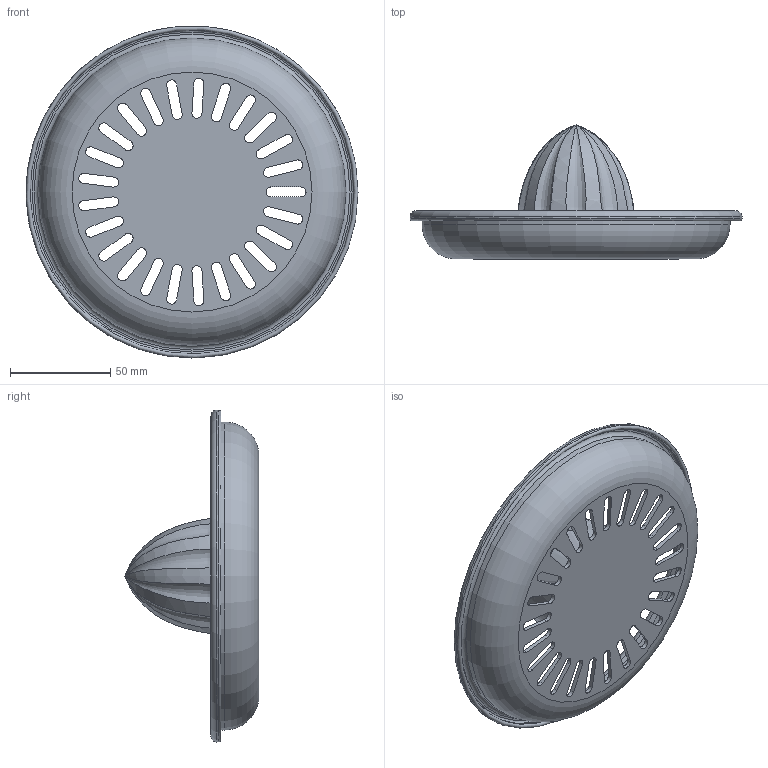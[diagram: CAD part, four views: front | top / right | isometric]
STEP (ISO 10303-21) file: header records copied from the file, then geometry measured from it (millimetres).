
FILE_DESCRIPTION(/* description */ (''),/* implementation_level */ '2;1');
FILE_NAME(/* name */ 'D:\INVENTOR Doc\In Class-Training-Tutorials Files\Assembly-Part-ipt-iam-DONE\Part\Plastic Part-Juice.stp',/* time_stamp */ '2024-02-15T09:19:49+04:00',/* author */ ('LENOVO'),/* organization */ (''),/* preprocessor_version */ 'ST-DEVELOPER v18.1',/* originating_system */ 'Autodesk Inventor 2022',/* authorisation */ '');
FILE_SCHEMA (('AUTOMOTIVE_DESIGN { 1 0 10303 214 3 1 1 }'));
Length unit declared in the file: millimetre
Products named in the file (1): Part2-Juice
Bounding box: 166 x 67 x 166 mm (x, y, z)
Volume: 177938 mm3; surface area: 64314.6 mm2
Topology: 1 solids, 1 shells, 127 faces, 388 edges, 236 vertices
Faces by surface type: plane 54, cylinder 54, bspline 12, torus 7
Full cylindrical faces by diameter (mm): 150 x1, 154 x1, 162 x1, 166 x1
Entity records: 7809 total; most frequent: CARTESIAN_POINT 4194, ORIENTED_EDGE 714, DIRECTION 696, EDGE_CURVE 357, AXIS2_PLACEMENT_3D 246, VERTEX_POINT 235, LINE 204, VECTOR 204
